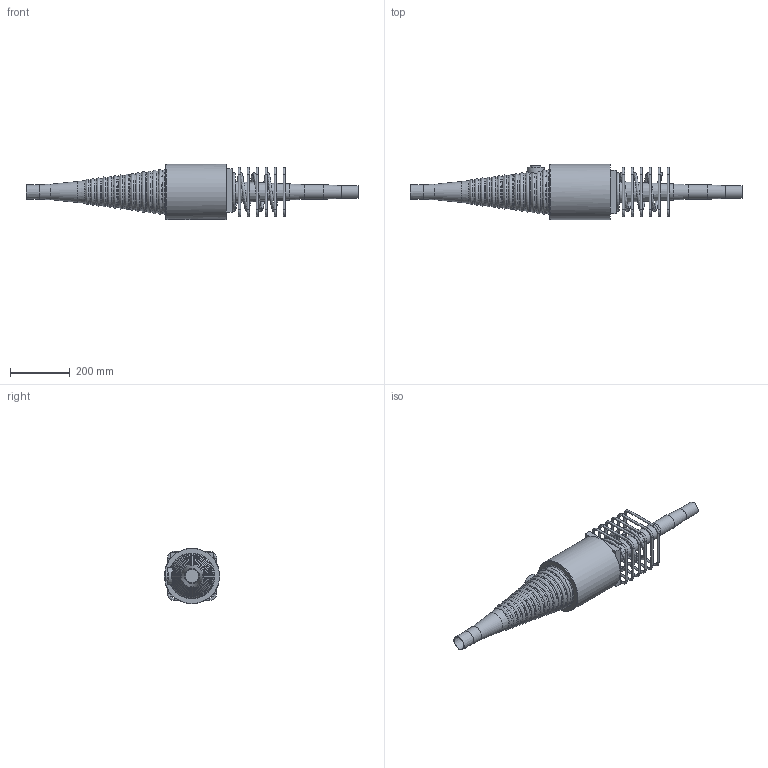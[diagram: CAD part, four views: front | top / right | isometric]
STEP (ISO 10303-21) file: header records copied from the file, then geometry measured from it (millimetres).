
FILE_DESCRIPTION(/* description */ (''),/* implementation_level */ '2;1');
FILE_NAME(/* name */ 'Z:\04 Publications\05 Give-out\BBR\6_3D_Models\BBR VT CONA CMI\BBR VT CONA CMI SP\00306\BBR VT CONA CMI SP 306_Coupler H Assembly_CS-34,28.stp',/* time_stamp */ '2017-05-05T13:33:06+02:00',/* author */ ('IP'),/* organization */ (''),/* preprocessor_version */ 'ST-DEVELOPER v16.1',/* originating_system */ 'Autodesk Inventor 2016',/* authorisation */ '');
FILE_SCHEMA (('AUTOMOTIVE_DESIGN { 1 0 10303 214 3 1 1 }'));
Length unit declared in the file: millimetre
Products named in the file (1): BBR VT CONA CMI SP 306_Coupler H Assembly_CS-34,28
Bounding box: 1111.33 x 185 x 185.1 mm (x, y, z)
Volume: 7462796.4 mm3; surface area: 699604.2 mm2
Topology: 9 solids, 9 shells, 951 faces, 2424 edges, 1541 vertices
Faces by surface type: bspline 429, plane 260, torus 121, cylinder 92, cone 37, sphere 12
Full cylindrical faces by diameter (mm): 8 x24, 34.158 x1, 42 x1, 49 x1, 50 x1, 57 x1, 185 x1
Entity records: 40112 total; most frequent: CARTESIAN_POINT 20076, ORIENTED_EDGE 4506, DIRECTION 2929, EDGE_CURVE 2252, VERTEX_POINT 1534, EDGE_LOOP 1181, AXIS2_PLACEMENT_3D 1012, FACE_OUTER_BOUND 951
